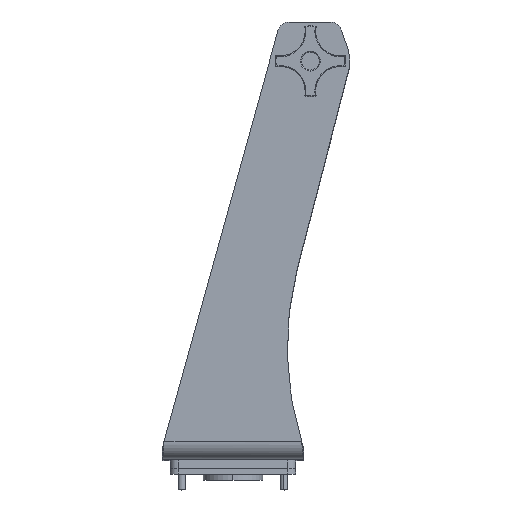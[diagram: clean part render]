
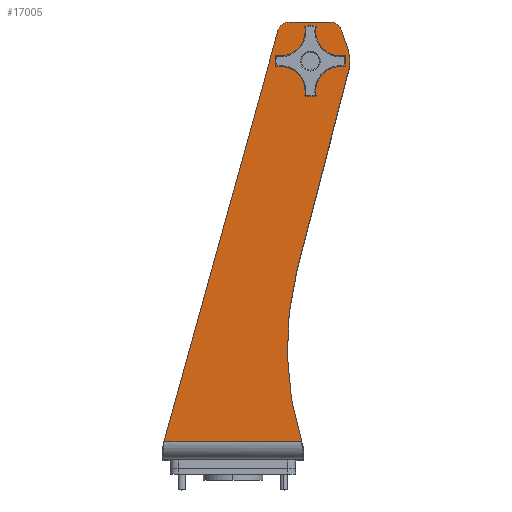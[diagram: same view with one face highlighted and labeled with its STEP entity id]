
A CAD part, top view. The second image highlights one B-rep face of the part: STEP entity #17005.
In plain terms, the highlighted planar face has unit normal (0, 0, 1) as drawn and (1, 0, 0) by its records, which use the part's own axes.
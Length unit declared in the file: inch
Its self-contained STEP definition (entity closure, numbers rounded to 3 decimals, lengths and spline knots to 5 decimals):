
#116 = AXIS2_PLACEMENT_3D ( 'NONE', #3714, #16795, #5570 ) ;
#399 = AXIS2_PLACEMENT_3D ( 'NONE', #14326, #14406, #3230 ) ;
#472 = CARTESIAN_POINT ( 'NONE',  ( 9.7, 12.676, -2.46533 ) ) ;
#615 = CARTESIAN_POINT ( 'NONE',  ( 9.7, 12.676, -2.46533 ) ) ;
#977 = LINE ( 'NONE', #13438, #21424 ) ;
#1860 = CARTESIAN_POINT ( 'NONE',  ( 9.7, 2.10113, -7.22991 ) ) ;
#1990 = CIRCLE ( 'NONE', #7761, 10. ) ;
#2002 = EDGE_CURVE ( 'NONE', #21169, #20118, #977, .T. ) ;
#2127 = EDGE_CURVE ( 'NONE', #22644, #6242, #9701, .T. ) ;
#2335 = DIRECTION ( 'NONE',  ( 0., 1., 0. ) ) ;
#2473 = DIRECTION ( 'NONE',  ( 0., 1., 0. ) ) ;
#3230 = DIRECTION ( 'NONE',  ( 0., 1., 0. ) ) ;
#3572 = AXIS2_PLACEMENT_3D ( 'NONE', #8701, #21786, #10564 ) ;
#3578 = DIRECTION ( 'NONE',  ( 0., 0., -1. ) ) ;
#3623 = DIRECTION ( 'NONE',  ( 1., 0., 0. ) ) ;
#3695 = CARTESIAN_POINT ( 'NONE',  ( 9.7, 12.8715, -2.46533 ) ) ;
#3714 = CARTESIAN_POINT ( 'NONE',  ( 9.7, 13.55126, -3.10022 ) ) ;
#5150 = VERTEX_POINT ( 'NONE', #8502 ) ;
#5158 = CARTESIAN_POINT ( 'NONE',  ( 9.7, 13.64147, -1.43079 ) ) ;
#5456 = VECTOR ( 'NONE', #14921, 39.37008 ) ;
#5477 = CARTESIAN_POINT ( 'NONE',  ( 9.7, 13.926, -3.10022 ) ) ;
#5570 = DIRECTION ( 'NONE',  ( 0., 1., 0. ) ) ;
#5639 = LINE ( 'NONE', #9482, #10018 ) ;
#5725 = AXIS2_PLACEMENT_3D ( 'NONE', #615, #13650, #2473 ) ;
#5736 = EDGE_LOOP ( 'NONE', ( #18974, #23267, #10095, #10343, #23002, #16023, #10114, #8430, #13196 ) ) ;
#6127 = EDGE_CURVE ( 'NONE', #6242, #22644, #13392, .T. ) ;
#6242 = VERTEX_POINT ( 'NONE', #17874 ) ;
#6818 = VECTOR ( 'NONE', #3578, 39.37008 ) ;
#6849 = ORIENTED_EDGE ( 'NONE', *, *, #6127, .F. ) ;
#6919 = CARTESIAN_POINT ( 'NONE',  ( 9.7, 13.926, -11.72649 ) ) ;
#7173 = AXIS2_PLACEMENT_3D ( 'NONE', #14814, #3623, #16709 ) ;
#7732 = CIRCLE ( 'NONE', #7173, 1.25 ) ;
#7761 = AXIS2_PLACEMENT_3D ( 'NONE', #7813, #20898, #9697 ) ;
#7813 = CARTESIAN_POINT ( 'NONE',  ( 9.7, 3.56814, -11.72649 ) ) ;
#8129 = CARTESIAN_POINT ( 'NONE',  ( 9.7, 0.563, 2.19784 ) ) ;
#8430 = ORIENTED_EDGE ( 'NONE', *, *, #10578, .T. ) ;
#8502 = CARTESIAN_POINT ( 'NONE',  ( 9.7, 13.65965, -3.45894 ) ) ;
#8701 = CARTESIAN_POINT ( 'NONE',  ( 9.7, 13.55126, -1.79451 ) ) ;
#9194 = EDGE_CURVE ( 'NONE', #15097, #15317, #12429, .T. ) ;
#9482 = CARTESIAN_POINT ( 'NONE',  ( 9.7, 6.94052, 0.42839 ) ) ;
#9660 = CARTESIAN_POINT ( 'NONE',  ( 9.7, 13.926, -1.79451 ) ) ;
#9697 = DIRECTION ( 'NONE',  ( 0., 1., 0. ) ) ;
#9701 = CIRCLE ( 'NONE', #5725, 0.1955 ) ;
#10018 = VECTOR ( 'NONE', #11352, 39.37008 ) ;
#10095 = ORIENTED_EDGE ( 'NONE', *, *, #22011, .T. ) ;
#10114 = ORIENTED_EDGE ( 'NONE', *, *, #19564, .T. ) ;
#10343 = ORIENTED_EDGE ( 'NONE', *, *, #2002, .T. ) ;
#10362 = CARTESIAN_POINT ( 'NONE',  ( 9.7, 13.03753, -3.6619 ) ) ;
#10564 = DIRECTION ( 'NONE',  ( 0., 1., 0. ) ) ;
#10578 = EDGE_CURVE ( 'NONE', #22609, #15097, #12094, .T. ) ;
#10662 = DIRECTION ( 'NONE',  ( 0., 0., 1. ) ) ;
#11153 = DIRECTION ( 'NONE',  ( 0., 0.968, -0.251 ) ) ;
#11352 = DIRECTION ( 'NONE',  ( 0., -0.964, 0.267 ) ) ;
#12094 = LINE ( 'NONE', #6919, #19595 ) ;
#12429 = CIRCLE ( 'NONE', #3572, 0.37474 ) ;
#12516 = PLANE ( 'NONE',  #399 ) ;
#13136 = CARTESIAN_POINT ( 'NONE',  ( 9.7, 12.31447, -3.6619 ) ) ;
#13196 = ORIENTED_EDGE ( 'NONE', *, *, #9194, .T. ) ;
#13392 = CIRCLE ( 'NONE', #18116, 0.1955 ) ;
#13438 = CARTESIAN_POINT ( 'NONE',  ( 9.7, 6.07552, -2.04594 ) ) ;
#13499 = DIRECTION ( 'NONE',  ( 1., 0., 0. ) ) ;
#13600 = FACE_BOUND ( 'NONE', #17441, .T. ) ;
#13650 = DIRECTION ( 'NONE',  ( 1., 0., 0. ) ) ;
#14326 = CARTESIAN_POINT ( 'NONE',  ( 9.7, 3.56814, -11.72649 ) ) ;
#14406 = DIRECTION ( 'NONE',  ( 1., 0., 0. ) ) ;
#14814 = CARTESIAN_POINT ( 'NONE',  ( 9.7, 12.676, -2.46533 ) ) ;
#14921 = DIRECTION ( 'NONE',  ( 0., 0.951, 0.31 ) ) ;
#15097 = VERTEX_POINT ( 'NONE', #9660 ) ;
#15317 = VERTEX_POINT ( 'NONE', #5158 ) ;
#16023 = ORIENTED_EDGE ( 'NONE', *, *, #22227, .T. ) ;
#16709 = DIRECTION ( 'NONE',  ( 0., 1., 0. ) ) ;
#16795 = DIRECTION ( 'NONE',  ( 1., 0., 0. ) ) ;
#16877 = CARTESIAN_POINT ( 'NONE',  ( 9.7, 6.07712, -2.04636 ) ) ;
#17005 = ADVANCED_FACE ( 'NONE', ( #13600, #22955 ), #12516, .T. ) ;
#17441 = EDGE_LOOP ( 'NONE', ( #18978, #6849 ) ) ;
#17540 = VERTEX_POINT ( 'NONE', #21127 ) ;
#17874 = CARTESIAN_POINT ( 'NONE',  ( 9.7, 12.4805, -2.46533 ) ) ;
#18116 = AXIS2_PLACEMENT_3D ( 'NONE', #472, #13499, #2335 ) ;
#18974 = ORIENTED_EDGE ( 'NONE', *, *, #19612, .T. ) ;
#18978 = ORIENTED_EDGE ( 'NONE', *, *, #2127, .F. ) ;
#19134 = VERTEX_POINT ( 'NONE', #8129 ) ;
#19451 = EDGE_CURVE ( 'NONE', #19134, #17540, #21754, .T. ) ;
#19564 = EDGE_CURVE ( 'NONE', #5150, #22609, #19999, .T. ) ;
#19595 = VECTOR ( 'NONE', #10662, 39.37008 ) ;
#19612 = EDGE_CURVE ( 'NONE', #15317, #19134, #5639, .T. ) ;
#19805 = LINE ( 'NONE', #1860, #5456 ) ;
#19999 = CIRCLE ( 'NONE', #116, 0.37474 ) ;
#20118 = VERTEX_POINT ( 'NONE', #13136 ) ;
#20898 = DIRECTION ( 'NONE',  ( -1., 0., 0. ) ) ;
#21127 = CARTESIAN_POINT ( 'NONE',  ( 9.7, 0.563, -2.18872 ) ) ;
#21169 = VERTEX_POINT ( 'NONE', #16877 ) ;
#21424 = VECTOR ( 'NONE', #11153, 39.37008 ) ;
#21433 = VERTEX_POINT ( 'NONE', #10362 ) ;
#21754 = LINE ( 'NONE', #24065, #6818 ) ;
#21786 = DIRECTION ( 'NONE',  ( 1., 0., 0. ) ) ;
#22011 = EDGE_CURVE ( 'NONE', #17540, #21169, #1990, .T. ) ;
#22227 = EDGE_CURVE ( 'NONE', #21433, #5150, #19805, .T. ) ;
#22609 = VERTEX_POINT ( 'NONE', #5477 ) ;
#22644 = VERTEX_POINT ( 'NONE', #3695 ) ;
#22955 = FACE_OUTER_BOUND ( 'NONE', #5736, .T. ) ;
#23002 = ORIENTED_EDGE ( 'NONE', *, *, #23598, .T. ) ;
#23267 = ORIENTED_EDGE ( 'NONE', *, *, #19451, .T. ) ;
#23598 = EDGE_CURVE ( 'NONE', #20118, #21433, #7732, .T. ) ;
#24065 = CARTESIAN_POINT ( 'NONE',  ( 9.7, 0.563, -11.72649 ) ) ;
